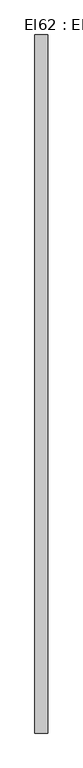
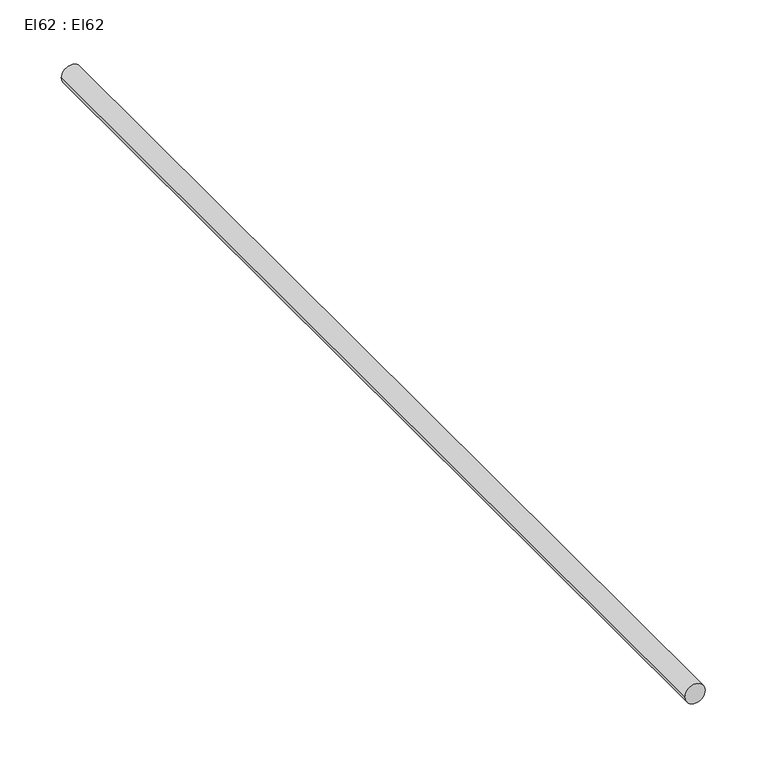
"""IFC4 building model written with IfcOpenShell, lengths in millimetres: cable carrier segment geometry, El62 : El62."""

from ifc_helpers import new_model, si_unit, point, frame, frame_2d, origin, place, context, project, spatial, circle_curve, trimmed, segment, composite_curve, outline, extrude, source, transform, mapped, element, save


def el62_el62_fd9375ac(model_context):
    return source(origin(), model_context, "Body", "SweptSolid", [
        extrude(outline(composite_curve([segment(trimmed(circle_curve(frame_2d((1200.0, 12950.0)), 9.5), [point((1200.0, 12940.5))], [point((1200.0, 12959.5))], False, "CARTESIAN"), True, "CONTINUOUS"), segment(trimmed(circle_curve(frame_2d((1200.0, 12950.0)), 9.5), [point((1200.0, 12959.5))], [point((1200.0, 12940.5))], False, "CARTESIAN"), True, "CONTINUOUS")], self_intersect=False)), frame((0.0, 18022.962, 0.0), z_axis=(0.0, 1.0, 0.0), x_axis=(0.0, 0.0, 1.0)), (0.0, 0.0, 1.0), 1014.08),
    ])


if __name__ == "__main__":
    model = new_model("IFC4")
    model_context = context("Model", 3, world=origin())
    ifc_project = project(units=[si_unit("LENGTHUNIT", "METRE", prefix="MILLI")], contexts=[model_context])
    site = spatial("IfcSite", under=ifc_project)
    building = spatial("IfcBuilding", under=site)
    placement = place(None, origin())
    el62_el62_shape = el62_el62_fd9375ac(model_context)
    element("IfcCableCarrierSegment", 1, ObjectType="El62 : El62", at=placement, inside=building, context=model_context, shape_type="MappedRepresentation", body=[
        mapped(el62_el62_shape, transform((0.0, 0.0, 0.0), x_axis=(1.0, 0.0, 0.0), y_axis=(0.0, 1.0, 0.0), z_axis=(0.0, 0.0, 1.0))),
    ])
    save(model, "model.ifc")
